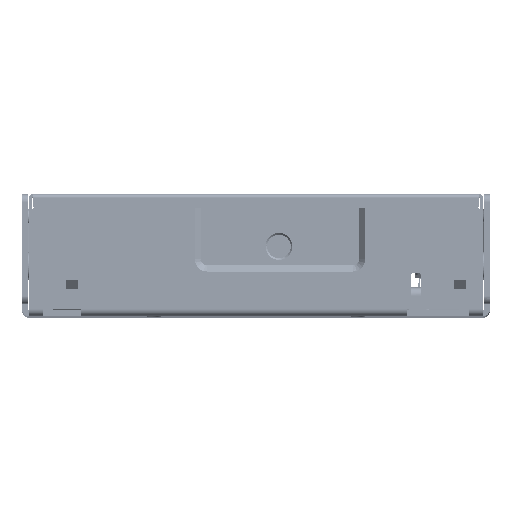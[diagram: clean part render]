
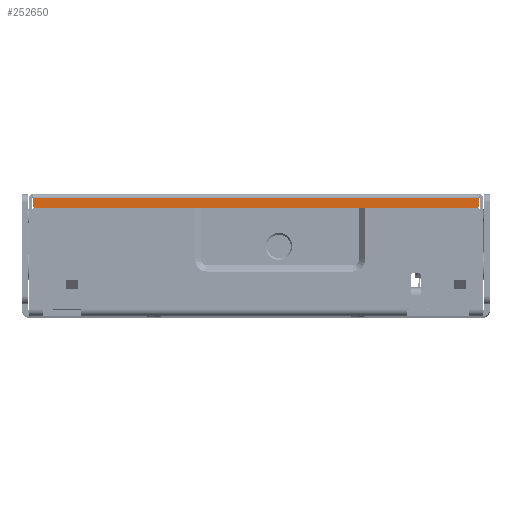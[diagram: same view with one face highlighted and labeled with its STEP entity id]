
A CAD part, top view. The second image highlights one B-rep face of the part: STEP entity #252650.
In plain terms, the highlighted planar face has unit normal (0, 0, 1).
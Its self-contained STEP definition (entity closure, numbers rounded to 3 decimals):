
#4031 = LINE ( 'NONE', #257760, #134208 ) ;
#7509 = DIRECTION ( 'NONE',  ( 0., -1., 0. ) ) ;
#25001 = VERTEX_POINT ( 'NONE', #225379 ) ;
#29073 = CARTESIAN_POINT ( 'NONE',  ( -53.85, 26.5, 107.5 ) ) ;
#31248 = AXIS2_PLACEMENT_3D ( 'NONE', #226720, #142092, #122655 ) ;
#36710 = EDGE_CURVE ( 'NONE', #187923, #148882, #86544, .T. ) ;
#47104 = CARTESIAN_POINT ( 'NONE',  ( 54.85, 29.1, 107.5 ) ) ;
#62395 = CIRCLE ( 'NONE', #75642, 1. ) ;
#70197 = CARTESIAN_POINT ( 'NONE',  ( 0., 29.1, 107.5 ) ) ;
#75642 = AXIS2_PLACEMENT_3D ( 'NONE', #167632, #142679, #267527 ) ;
#86544 = LINE ( 'NONE', #173922, #89232 ) ;
#89232 = VECTOR ( 'NONE', #7509, 1000. ) ;
#92340 = DIRECTION ( 'NONE',  ( -1., 0., 0. ) ) ;
#98504 = CARTESIAN_POINT ( 'NONE',  ( -54.85, 27.5, 107.5 ) ) ;
#99116 = PLANE ( 'NONE',  #31248 ) ;
#105021 = EDGE_LOOP ( 'NONE', ( #231403, #149356, #200052, #236280, #142557, #189639 ) ) ;
#109740 = EDGE_CURVE ( 'NONE', #148882, #218290, #259670, .T. ) ;
#122655 = DIRECTION ( 'NONE',  ( -1., 0., 0. ) ) ;
#126003 = CARTESIAN_POINT ( 'NONE',  ( 53.85, 26.5, 107.5 ) ) ;
#134208 = VECTOR ( 'NONE', #191220, 1000. ) ;
#135327 = LINE ( 'NONE', #70197, #257985 ) ;
#142092 = DIRECTION ( 'NONE',  ( 0., 0., 1. ) ) ;
#142557 = ORIENTED_EDGE ( 'NONE', *, *, #210128, .T. ) ;
#142679 = DIRECTION ( 'NONE',  ( 0., 0., 1. ) ) ;
#144586 = VECTOR ( 'NONE', #246695, 1000. ) ;
#148882 = VERTEX_POINT ( 'NONE', #98504 ) ;
#149356 = ORIENTED_EDGE ( 'NONE', *, *, #208962, .T. ) ;
#152104 = EDGE_CURVE ( 'NONE', #25001, #157799, #227287, .T. ) ;
#157799 = VERTEX_POINT ( 'NONE', #47104 ) ;
#159948 = EDGE_CURVE ( 'NONE', #225092, #25001, #62395, .T. ) ;
#167632 = CARTESIAN_POINT ( 'NONE',  ( 53.85, 27.5, 107.5 ) ) ;
#173109 = CARTESIAN_POINT ( 'NONE',  ( -53.85, 27.5, 107.5 ) ) ;
#173922 = CARTESIAN_POINT ( 'NONE',  ( -54.85, 27.8, 107.5 ) ) ;
#187923 = VERTEX_POINT ( 'NONE', #231583 ) ;
#189639 = ORIENTED_EDGE ( 'NONE', *, *, #36710, .T. ) ;
#191220 = DIRECTION ( 'NONE',  ( 1., 0., 0. ) ) ;
#200052 = ORIENTED_EDGE ( 'NONE', *, *, #159948, .T. ) ;
#208962 = EDGE_CURVE ( 'NONE', #218290, #225092, #4031, .T. ) ;
#210128 = EDGE_CURVE ( 'NONE', #157799, #187923, #135327, .T. ) ;
#214740 = DIRECTION ( 'NONE',  ( 0., -1., 0. ) ) ;
#218290 = VERTEX_POINT ( 'NONE', #29073 ) ;
#225092 = VERTEX_POINT ( 'NONE', #126003 ) ;
#225379 = CARTESIAN_POINT ( 'NONE',  ( 54.85, 27.5, 107.5 ) ) ;
#226720 = CARTESIAN_POINT ( 'NONE',  ( 57.044, 29.372, 107.5 ) ) ;
#227287 = LINE ( 'NONE', #245331, #144586 ) ;
#231403 = ORIENTED_EDGE ( 'NONE', *, *, #109740, .T. ) ;
#231583 = CARTESIAN_POINT ( 'NONE',  ( -54.85, 29.1, 107.5 ) ) ;
#236280 = ORIENTED_EDGE ( 'NONE', *, *, #152104, .T. ) ;
#245331 = CARTESIAN_POINT ( 'NONE',  ( 54.85, 27.8, 107.5 ) ) ;
#246695 = DIRECTION ( 'NONE',  ( 0., 1., 0. ) ) ;
#248905 = FACE_OUTER_BOUND ( 'NONE', #105021, .T. ) ;
#252650 = ADVANCED_FACE ( 'NONE', ( #248905 ), #99116, .T. ) ;
#257718 = DIRECTION ( 'NONE',  ( 0., 0., 1. ) ) ;
#257760 = CARTESIAN_POINT ( 'NONE',  ( 0., 26.5, 107.5 ) ) ;
#257985 = VECTOR ( 'NONE', #92340, 1000. ) ;
#259670 = CIRCLE ( 'NONE', #268333, 1. ) ;
#267527 = DIRECTION ( 'NONE',  ( 1., 0., 0. ) ) ;
#268333 = AXIS2_PLACEMENT_3D ( 'NONE', #173109, #257718, #214740 ) ;
